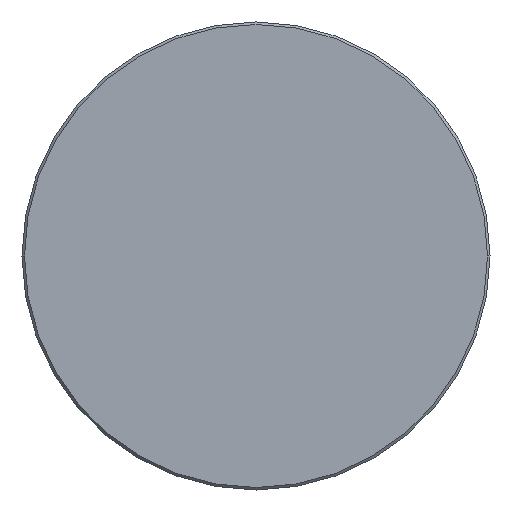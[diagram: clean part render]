
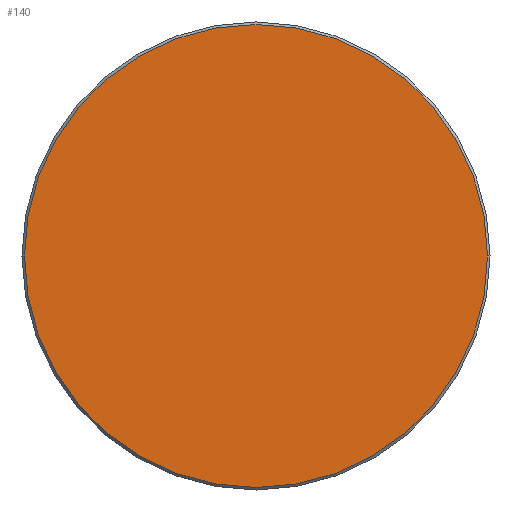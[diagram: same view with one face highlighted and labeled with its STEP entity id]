
A CAD part, left-side view. The second image highlights one B-rep face of the part: STEP entity #140.
In plain terms, the highlighted planar face has unit normal (-1, 0, 0).
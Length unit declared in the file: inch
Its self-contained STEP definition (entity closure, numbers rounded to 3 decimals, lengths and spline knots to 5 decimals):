
#24 = CARTESIAN_POINT ( 'NONE',  ( 0., -0.371, 0. ) ) ;
#34 = AXIS2_PLACEMENT_3D ( 'NONE', #183, #298, #46 ) ;
#42 = AXIS2_PLACEMENT_3D ( 'NONE', #350, #322, #202 ) ;
#46 = DIRECTION ( 'NONE',  ( 0., -1., 0. ) ) ;
#55 = CIRCLE ( 'NONE', #34, 0.371 ) ;
#81 = VERTEX_POINT ( 'NONE', #259 ) ;
#89 = CARTESIAN_POINT ( 'NONE',  ( 0., 0., 0. ) ) ;
#92 = VERTEX_POINT ( 'NONE', #24 ) ;
#113 = EDGE_CURVE ( 'NONE', #92, #81, #145, .T. ) ;
#140 = ADVANCED_FACE ( 'NONE', ( #225 ), #328, .T. ) ;
#145 = CIRCLE ( 'NONE', #297, 0.371 ) ;
#149 = ORIENTED_EDGE ( 'NONE', *, *, #113, .T. ) ;
#174 = DIRECTION ( 'NONE',  ( 0., -1., 0. ) ) ;
#183 = CARTESIAN_POINT ( 'NONE',  ( 0., 0., 0. ) ) ;
#202 = DIRECTION ( 'NONE',  ( 0., -1., 0. ) ) ;
#225 = FACE_OUTER_BOUND ( 'NONE', #308, .T. ) ;
#231 = EDGE_CURVE ( 'NONE', #81, #92, #55, .T. ) ;
#259 = CARTESIAN_POINT ( 'NONE',  ( 0., 0.371, 0. ) ) ;
#267 = DIRECTION ( 'NONE',  ( -1., 0., 0. ) ) ;
#296 = ORIENTED_EDGE ( 'NONE', *, *, #231, .T. ) ;
#297 = AXIS2_PLACEMENT_3D ( 'NONE', #89, #267, #174 ) ;
#298 = DIRECTION ( 'NONE',  ( -1., 0., 0. ) ) ;
#308 = EDGE_LOOP ( 'NONE', ( #296, #149 ) ) ;
#322 = DIRECTION ( 'NONE',  ( -1., 0., 0. ) ) ;
#328 = PLANE ( 'NONE',  #42 ) ;
#350 = CARTESIAN_POINT ( 'NONE',  ( 0., 0., 0. ) ) ;
